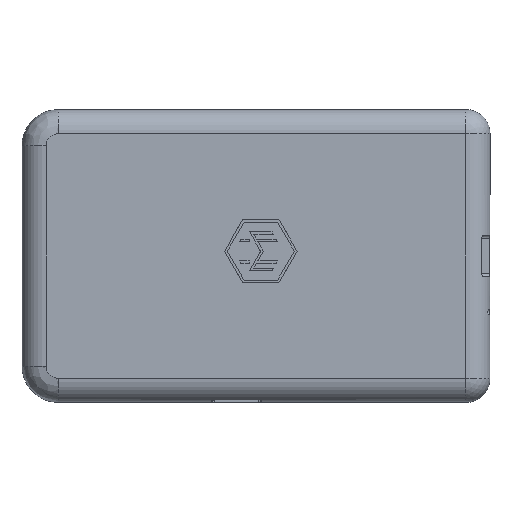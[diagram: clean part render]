
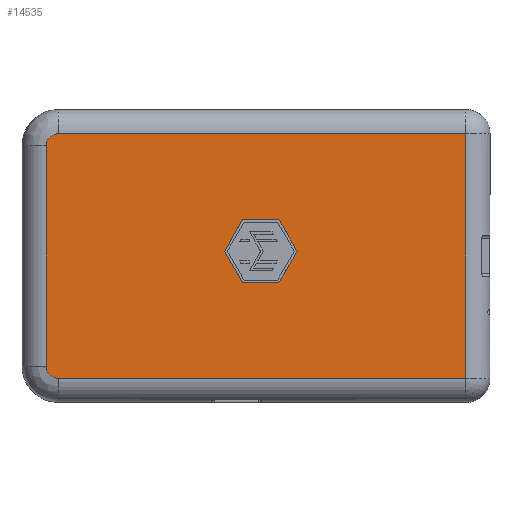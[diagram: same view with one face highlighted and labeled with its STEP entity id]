
A CAD part, front view. The second image highlights one B-rep face of the part: STEP entity #14535.
In plain terms, the highlighted planar face has unit normal (0, -1, 0).
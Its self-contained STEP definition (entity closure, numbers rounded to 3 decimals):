
#34=FACE_BOUND('',#4755,.T.);
#306=PLANE('',#16322);
#1138=LINE('',#33525,#2079);
#1142=LINE('',#33533,#2083);
#1145=LINE('',#33539,#2086);
#1148=LINE('',#33545,#2089);
#1151=LINE('',#33551,#2092);
#1154=LINE('',#33556,#2095);
#1222=LINE('',#33696,#2163);
#1223=LINE('',#33698,#2164);
#1224=LINE('',#33700,#2165);
#1225=LINE('',#33704,#2166);
#2079=VECTOR('',#20445,10.);
#2083=VECTOR('',#20451,10.);
#2086=VECTOR('',#20456,10.);
#2089=VECTOR('',#20461,10.);
#2092=VECTOR('',#20466,10.);
#2095=VECTOR('',#20471,10.);
#2163=VECTOR('',#20591,10.);
#2164=VECTOR('',#20592,10.);
#2165=VECTOR('',#20593,10.);
#2166=VECTOR('',#20596,10.);
#3792=FACE_OUTER_BOUND('',#4754,.T.);
#4754=EDGE_LOOP('',(#12659,#12660,#12661,#12662,#12663,#12664));
#4755=EDGE_LOOP('',(#12665,#12666,#12667,#12668,#12669,#12670));
#5629=CIRCLE('',#16323,2.5);
#5630=CIRCLE('',#16324,2.5);
#6877=VERTEX_POINT('',#33523);
#6878=VERTEX_POINT('',#33524);
#6881=VERTEX_POINT('',#33532);
#6883=VERTEX_POINT('',#33538);
#6885=VERTEX_POINT('',#33544);
#6887=VERTEX_POINT('',#33550);
#6933=VERTEX_POINT('',#33694);
#6934=VERTEX_POINT('',#33695);
#6935=VERTEX_POINT('',#33697);
#6936=VERTEX_POINT('',#33699);
#6937=VERTEX_POINT('',#33701);
#6938=VERTEX_POINT('',#33703);
#8896=EDGE_CURVE('',#6877,#6878,#1138,.F.);
#8900=EDGE_CURVE('',#6881,#6877,#1142,.F.);
#8903=EDGE_CURVE('',#6883,#6881,#1145,.F.);
#8906=EDGE_CURVE('',#6885,#6883,#1148,.F.);
#8909=EDGE_CURVE('',#6887,#6885,#1151,.F.);
#8912=EDGE_CURVE('',#6878,#6887,#1154,.F.);
#8980=EDGE_CURVE('',#6933,#6934,#1222,.T.);
#8981=EDGE_CURVE('',#6935,#6933,#1223,.T.);
#8982=EDGE_CURVE('',#6936,#6935,#1224,.T.);
#8983=EDGE_CURVE('',#6937,#6936,#5629,.T.);
#8984=EDGE_CURVE('',#6938,#6937,#1225,.T.);
#8985=EDGE_CURVE('',#6934,#6938,#5630,.T.);
#12659=ORIENTED_EDGE('',*,*,#8980,.F.);
#12660=ORIENTED_EDGE('',*,*,#8981,.F.);
#12661=ORIENTED_EDGE('',*,*,#8982,.F.);
#12662=ORIENTED_EDGE('',*,*,#8983,.F.);
#12663=ORIENTED_EDGE('',*,*,#8984,.F.);
#12664=ORIENTED_EDGE('',*,*,#8985,.F.);
#12665=ORIENTED_EDGE('',*,*,#8896,.T.);
#12666=ORIENTED_EDGE('',*,*,#8912,.T.);
#12667=ORIENTED_EDGE('',*,*,#8909,.T.);
#12668=ORIENTED_EDGE('',*,*,#8906,.T.);
#12669=ORIENTED_EDGE('',*,*,#8903,.T.);
#12670=ORIENTED_EDGE('',*,*,#8900,.T.);
#14535=ADVANCED_FACE('',(#3792,#34),#306,.F.);
#16322=AXIS2_PLACEMENT_3D('',#33693,#20589,#20590);
#16323=AXIS2_PLACEMENT_3D('',#33702,#20594,#20595);
#16324=AXIS2_PLACEMENT_3D('',#33705,#20597,#20598);
#20445=DIRECTION('',(1.,0.,0.));
#20451=DIRECTION('',(0.5,0.,0.866));
#20456=DIRECTION('',(-0.5,0.,0.866));
#20461=DIRECTION('',(-1.,0.,0.));
#20466=DIRECTION('',(-0.5,0.,-0.866));
#20471=DIRECTION('',(0.5,0.,-0.866));
#20589=DIRECTION('center_axis',(0.,1.,0.));
#20590=DIRECTION('ref_axis',(0.,0.,1.));
#20591=DIRECTION('',(-1.,0.,0.));
#20592=DIRECTION('',(0.,0.,-1.));
#20593=DIRECTION('',(1.,0.,0.));
#20594=DIRECTION('center_axis',(0.,1.,0.));
#20595=DIRECTION('ref_axis',(-0.707,0.,0.707));
#20596=DIRECTION('',(0.,0.,1.));
#20597=DIRECTION('center_axis',(0.,1.,0.));
#20598=DIRECTION('ref_axis',(-0.707,0.,-0.707));
#33523=CARTESIAN_POINT('',(-43.663,1.,-35.807));
#33524=CARTESIAN_POINT('',(-51.177,1.,-35.807));
#33525=CARTESIAN_POINT('',(-46.044,1.,-35.807));
#33532=CARTESIAN_POINT('',(-39.906,1.,-29.3));
#33533=CARTESIAN_POINT('',(-41.188,1.,-31.52));
#33538=CARTESIAN_POINT('',(-43.663,1.,-22.793));
#33539=CARTESIAN_POINT('',(-42.631,1.,-24.58));
#33544=CARTESIAN_POINT('',(-51.177,1.,-22.793));
#33545=CARTESIAN_POINT('',(-49.796,1.,-22.793));
#33550=CARTESIAN_POINT('',(-54.934,1.,-29.3));
#33551=CARTESIAN_POINT('',(-54.335,1.,-28.263));
#33556=CARTESIAN_POINT('',(-52.026,1.,-34.337));
#33693=CARTESIAN_POINT('Origin',(-48.42,1.,-30.3));
#33694=CARTESIAN_POINT('',(-5.,1.,-55.6));
#33695=CARTESIAN_POINT('',(-89.34,1.,-55.6));
#33696=CARTESIAN_POINT('',(-24.21,1.,-55.6));
#33697=CARTESIAN_POINT('',(-5.,1.,-5.));
#33698=CARTESIAN_POINT('',(-5.,1.,-15.15));
#33699=CARTESIAN_POINT('',(-89.34,1.,-5.));
#33700=CARTESIAN_POINT('',(-72.63,1.,-5.));
#33701=CARTESIAN_POINT('',(-91.84,1.,-7.5));
#33702=CARTESIAN_POINT('Origin',(-89.34,1.,-7.5));
#33703=CARTESIAN_POINT('',(-91.84,1.,-53.1));
#33704=CARTESIAN_POINT('',(-91.84,1.,-45.45));
#33705=CARTESIAN_POINT('Origin',(-89.34,1.,-53.1));
